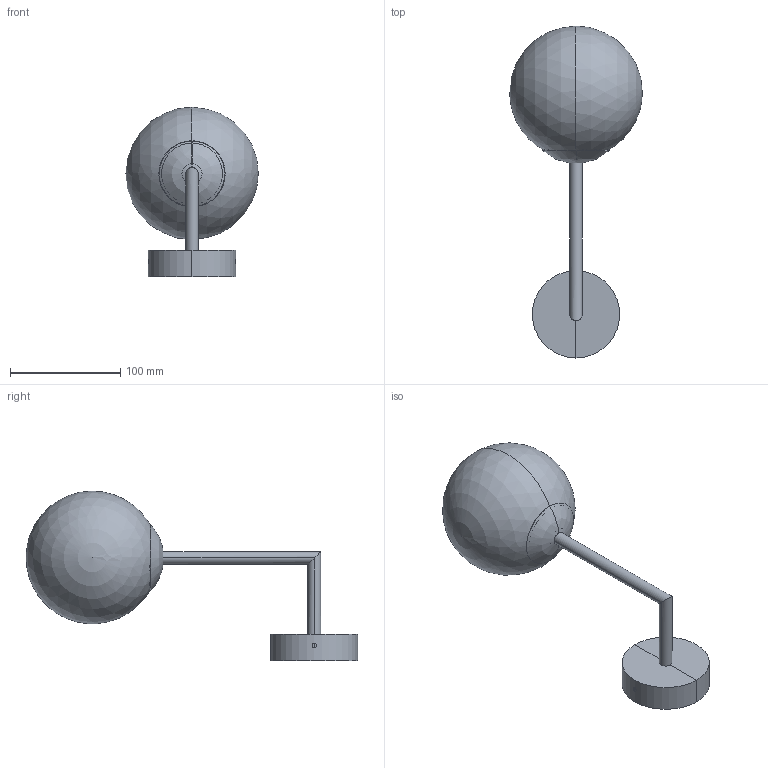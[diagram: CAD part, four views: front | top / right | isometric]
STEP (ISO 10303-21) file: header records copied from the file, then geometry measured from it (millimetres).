
FILE_DESCRIPTION(/* description */ (''),/* implementation_level */ '2;1');
FILE_NAME(/* name */ '63504_3d.step',/* time_stamp */ '2024-06-13T13:16:17+02:00',/* author */ ('RenataManzini'),/* organization */ (''),/* preprocessor_version */ 'ST-DEVELOPER v20',/* originating_system */ 'AutoCAD Mechanical',/* authorisation */ '');
FILE_SCHEMA (('AUTOMOTIVE_DESIGN { 1 0 10303 214 3 1 1 }'));
Length unit declared in the file: millimetre
Products named in the file (2): Product; gala_aplique - STUDIO-466553-_3D_
Assembly tree (1 placements, depth 2):
  Product
    gala_aplique - STUDIO-466553-_3D_
Bounding box: 120.09 x 300.33 x 153.6 mm (x, y, z)
Volume: 138728.6 mm3; surface area: 139056.2 mm2
Topology: 7 solids, 8 shells, 96 faces, 193 edges, 111 vertices
Faces by surface type: plane 38, cylinder 24, torus 16, cone 10, sphere 4, bspline 4
Entity records: 3850 total; most frequent: CARTESIAN_POINT 1888, DIRECTION 416, ORIENTED_EDGE 372, EDGE_CURVE 186, AXIS2_PLACEMENT_3D 178, VERTEX_POINT 106, EDGE_LOOP 100, FACE_OUTER_BOUND 96
